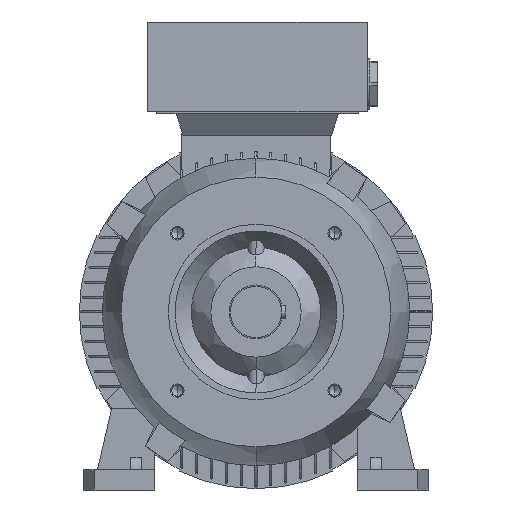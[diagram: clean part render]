
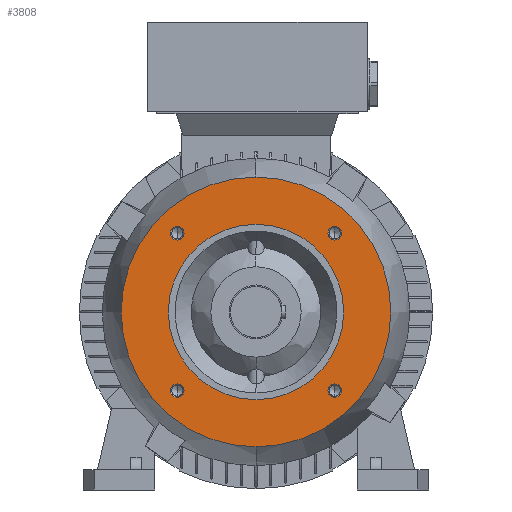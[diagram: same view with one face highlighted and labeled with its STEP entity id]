
A CAD part, left-side view. The second image highlights one B-rep face of the part: STEP entity #3808.
In plain terms, the highlighted planar face has unit normal (-1, 0, 0).
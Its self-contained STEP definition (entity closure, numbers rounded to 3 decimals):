
#124 = CIRCLE ( 'NONE', #18564, 100. ) ;
#664 = CIRCLE ( 'NONE', #7068, 65. ) ;
#666 = CIRCLE ( 'NONE', #7069, 5. ) ;
#667 = CIRCLE ( 'NONE', #7070, 5. ) ;
#668 = CIRCLE ( 'NONE', #7071, 5. ) ;
#669 = CIRCLE ( 'NONE', #7072, 5. ) ;
#1756 = CARTESIAN_POINT ( 'NONE',  ( -50.5, 0., 0. ) ) ;
#1757 = DIRECTION ( 'NONE',  ( 1., 0., 0. ) ) ;
#1758 = DIRECTION ( 'NONE',  ( 0., 0., 1. ) ) ;
#1759 = CARTESIAN_POINT ( 'NONE',  ( -50.5, -58.336, 58.336 ) ) ;
#1760 = DIRECTION ( 'NONE',  ( 1., 0., 0. ) ) ;
#1761 = DIRECTION ( 'NONE',  ( 0., 0., 1. ) ) ;
#1762 = CARTESIAN_POINT ( 'NONE',  ( -50.5, 58.336, 58.336 ) ) ;
#1763 = DIRECTION ( 'NONE',  ( 1., 0., 0. ) ) ;
#1764 = DIRECTION ( 'NONE',  ( 0., 0., 1. ) ) ;
#1767 = CARTESIAN_POINT ( 'NONE',  ( -50.5, 58.336, -58.336 ) ) ;
#1768 = DIRECTION ( 'NONE',  ( 1., 0., 0. ) ) ;
#1769 = DIRECTION ( 'NONE',  ( 0., 0., 1. ) ) ;
#1772 = CARTESIAN_POINT ( 'NONE',  ( -50.5, -58.336, -58.336 ) ) ;
#1773 = DIRECTION ( 'NONE',  ( 1., 0., 0. ) ) ;
#1774 = DIRECTION ( 'NONE',  ( 0., 0., 1. ) ) ;
#3808 = ADVANCED_FACE ( 'NONE', ( #6203, #6205, #6194, #6204, #6197, #6206 ), #25051, .T. ) ;
#4694 = CARTESIAN_POINT ( 'NONE',  ( -50.5, -58.336, -58.336 ) ) ;
#4695 = DIRECTION ( 'NONE',  ( 1., 0., 0. ) ) ;
#4696 = DIRECTION ( 'NONE',  ( 0., 0., 1. ) ) ;
#4704 = CARTESIAN_POINT ( 'NONE',  ( -50.5, 58.336, -58.336 ) ) ;
#4705 = DIRECTION ( 'NONE',  ( 1., 0., 0. ) ) ;
#4706 = DIRECTION ( 'NONE',  ( 0., 0., 1. ) ) ;
#4714 = CARTESIAN_POINT ( 'NONE',  ( -50.5, 58.336, 58.336 ) ) ;
#4715 = DIRECTION ( 'NONE',  ( 1., 0., 0. ) ) ;
#4716 = DIRECTION ( 'NONE',  ( 0., 0., 1. ) ) ;
#4724 = CARTESIAN_POINT ( 'NONE',  ( -50.5, -58.336, 58.336 ) ) ;
#4725 = DIRECTION ( 'NONE',  ( 1., 0., 0. ) ) ;
#4726 = DIRECTION ( 'NONE',  ( 0., 0., 1. ) ) ;
#4740 = CARTESIAN_POINT ( 'NONE',  ( -50.5, 0., 0. ) ) ;
#4741 = DIRECTION ( 'NONE',  ( 1., 0., 0. ) ) ;
#4742 = DIRECTION ( 'NONE',  ( 0., 0., 1. ) ) ;
#5121 = CARTESIAN_POINT ( 'NONE',  ( -50.5, 0., 0. ) ) ;
#5122 = DIRECTION ( 'NONE',  ( 1., 0., 0. ) ) ;
#5123 = DIRECTION ( 'NONE',  ( 0., 0., -1. ) ) ;
#6194 = FACE_BOUND ( 'NONE', #16716, .T. ) ;
#6197 = FACE_BOUND ( 'NONE', #16710, .T. ) ;
#6203 = FACE_BOUND ( 'NONE', #16711, .T. ) ;
#6204 = FACE_BOUND ( 'NONE', #16709, .T. ) ;
#6205 = FACE_OUTER_BOUND ( 'NONE', #16713, .T. ) ;
#6206 = FACE_BOUND ( 'NONE', #16722, .T. ) ;
#7068 = AXIS2_PLACEMENT_3D ( 'NONE', #1756, #1757, #1758 ) ;
#7069 = AXIS2_PLACEMENT_3D ( 'NONE', #1759, #1760, #1761 ) ;
#7070 = AXIS2_PLACEMENT_3D ( 'NONE', #1762, #1763, #1764 ) ;
#7071 = AXIS2_PLACEMENT_3D ( 'NONE', #1767, #1768, #1769 ) ;
#7072 = AXIS2_PLACEMENT_3D ( 'NONE', #1772, #1773, #1774 ) ;
#11594 = EDGE_CURVE ( 'NONE', #12326, #12327, #15255, .T. ) ;
#12251 = VERTEX_POINT ( 'NONE', #12967 ) ;
#12254 = VERTEX_POINT ( 'NONE', #12970 ) ;
#12260 = VERTEX_POINT ( 'NONE', #12976 ) ;
#12261 = VERTEX_POINT ( 'NONE', #12977 ) ;
#12264 = VERTEX_POINT ( 'NONE', #12980 ) ;
#12265 = VERTEX_POINT ( 'NONE', #12981 ) ;
#12268 = VERTEX_POINT ( 'NONE', #12984 ) ;
#12269 = VERTEX_POINT ( 'NONE', #12985 ) ;
#12272 = VERTEX_POINT ( 'NONE', #12988 ) ;
#12273 = VERTEX_POINT ( 'NONE', #12989 ) ;
#12326 = VERTEX_POINT ( 'NONE', #13042 ) ;
#12327 = VERTEX_POINT ( 'NONE', #13043 ) ;
#12603 = CARTESIAN_POINT ( 'NONE',  ( -50.5, 0., 0. ) ) ;
#12604 = DIRECTION ( 'NONE',  ( 1., 0., 0. ) ) ;
#12605 = DIRECTION ( 'NONE',  ( 0., 0., -1. ) ) ;
#12967 = CARTESIAN_POINT ( 'NONE',  ( -50.5, 0., -65. ) ) ;
#12970 = CARTESIAN_POINT ( 'NONE',  ( -50.5, 0., 65. ) ) ;
#12976 = CARTESIAN_POINT ( 'NONE',  ( -50.5, -58.336, 63.336 ) ) ;
#12977 = CARTESIAN_POINT ( 'NONE',  ( -50.5, -58.336, 53.336 ) ) ;
#12980 = CARTESIAN_POINT ( 'NONE',  ( -50.5, 58.336, 63.336 ) ) ;
#12981 = CARTESIAN_POINT ( 'NONE',  ( -50.5, 58.336, 53.336 ) ) ;
#12984 = CARTESIAN_POINT ( 'NONE',  ( -50.5, 58.336, -53.336 ) ) ;
#12985 = CARTESIAN_POINT ( 'NONE',  ( -50.5, 58.336, -63.336 ) ) ;
#12988 = CARTESIAN_POINT ( 'NONE',  ( -50.5, -58.336, -53.336 ) ) ;
#12989 = CARTESIAN_POINT ( 'NONE',  ( -50.5, -58.336, -63.336 ) ) ;
#13042 = CARTESIAN_POINT ( 'NONE',  ( -50.5, 0., -100. ) ) ;
#13043 = CARTESIAN_POINT ( 'NONE',  ( -50.5, 0., 100. ) ) ;
#15255 = CIRCLE ( 'NONE', #18320, 100. ) ;
#16065 = CIRCLE ( 'NONE', #18475, 5. ) ;
#16070 = CIRCLE ( 'NONE', #18477, 5. ) ;
#16076 = CIRCLE ( 'NONE', #18479, 5. ) ;
#16082 = CIRCLE ( 'NONE', #18481, 5. ) ;
#16094 = CIRCLE ( 'NONE', #18484, 65. ) ;
#16709 = EDGE_LOOP ( 'NONE', ( #20720, #20721 ) ) ;
#16710 = EDGE_LOOP ( 'NONE', ( #20722, #20723 ) ) ;
#16711 = EDGE_LOOP ( 'NONE', ( #20714, #20715 ) ) ;
#16713 = EDGE_LOOP ( 'NONE', ( #20716, #20717 ) ) ;
#16716 = EDGE_LOOP ( 'NONE', ( #20718, #20719 ) ) ;
#16722 = EDGE_LOOP ( 'NONE', ( #20724, #20725 ) ) ;
#18320 = AXIS2_PLACEMENT_3D ( 'NONE', #12603, #12604, #12605 ) ;
#18475 = AXIS2_PLACEMENT_3D ( 'NONE', #4694, #4695, #4696 ) ;
#18477 = AXIS2_PLACEMENT_3D ( 'NONE', #4704, #4705, #4706 ) ;
#18479 = AXIS2_PLACEMENT_3D ( 'NONE', #4714, #4715, #4716 ) ;
#18481 = AXIS2_PLACEMENT_3D ( 'NONE', #4724, #4725, #4726 ) ;
#18484 = AXIS2_PLACEMENT_3D ( 'NONE', #4740, #4741, #4742 ) ;
#18564 = AXIS2_PLACEMENT_3D ( 'NONE', #5121, #5122, #5123 ) ;
#19801 = EDGE_CURVE ( 'NONE', #12272, #12273, #16065, .T. ) ;
#19805 = EDGE_CURVE ( 'NONE', #12268, #12269, #16070, .T. ) ;
#19809 = EDGE_CURVE ( 'NONE', #12264, #12265, #16076, .T. ) ;
#19813 = EDGE_CURVE ( 'NONE', #12260, #12261, #16082, .T. ) ;
#19819 = EDGE_CURVE ( 'NONE', #12251, #12254, #16094, .T. ) ;
#19920 = EDGE_CURVE ( 'NONE', #12327, #12326, #124, .T. ) ;
#20714 = ORIENTED_EDGE ( 'NONE', *, *, #26303, .T. ) ;
#20715 = ORIENTED_EDGE ( 'NONE', *, *, #19819, .T. ) ;
#20716 = ORIENTED_EDGE ( 'NONE', *, *, #11594, .F. ) ;
#20717 = ORIENTED_EDGE ( 'NONE', *, *, #19920, .F. ) ;
#20718 = ORIENTED_EDGE ( 'NONE', *, *, #19813, .T. ) ;
#20719 = ORIENTED_EDGE ( 'NONE', *, *, #26304, .T. ) ;
#20720 = ORIENTED_EDGE ( 'NONE', *, *, #19809, .T. ) ;
#20721 = ORIENTED_EDGE ( 'NONE', *, *, #26305, .T. ) ;
#20722 = ORIENTED_EDGE ( 'NONE', *, *, #19805, .T. ) ;
#20723 = ORIENTED_EDGE ( 'NONE', *, *, #26306, .T. ) ;
#20724 = ORIENTED_EDGE ( 'NONE', *, *, #19801, .T. ) ;
#20725 = ORIENTED_EDGE ( 'NONE', *, *, #26307, .T. ) ;
#24025 = AXIS2_PLACEMENT_3D ( 'NONE', #25057, #25052, #25058 ) ;
#25051 = PLANE ( 'NONE',  #24025 ) ;
#25052 = DIRECTION ( 'NONE',  ( -1., 0., 0. ) ) ;
#25057 = CARTESIAN_POINT ( 'NONE',  ( -50.5, 0., 82.5 ) ) ;
#25058 = DIRECTION ( 'NONE',  ( 0., 0., 1. ) ) ;
#26303 = EDGE_CURVE ( 'NONE', #12254, #12251, #664, .T. ) ;
#26304 = EDGE_CURVE ( 'NONE', #12261, #12260, #666, .T. ) ;
#26305 = EDGE_CURVE ( 'NONE', #12265, #12264, #667, .T. ) ;
#26306 = EDGE_CURVE ( 'NONE', #12269, #12268, #668, .T. ) ;
#26307 = EDGE_CURVE ( 'NONE', #12273, #12272, #669, .T. ) ;
